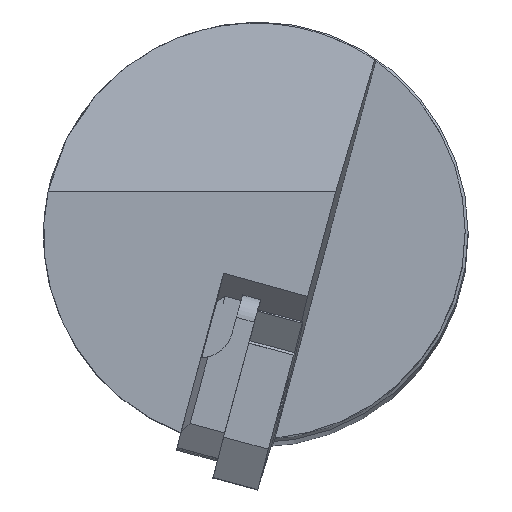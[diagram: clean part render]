
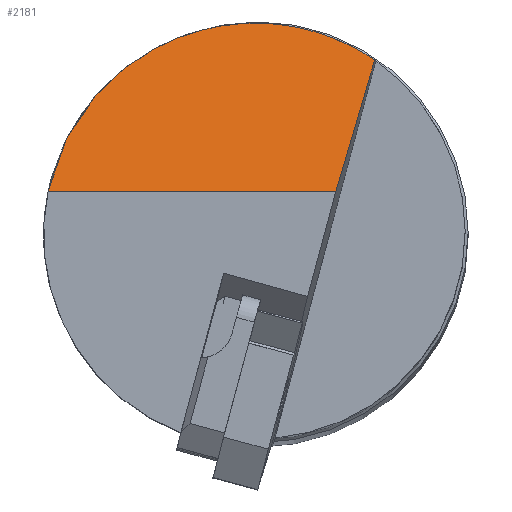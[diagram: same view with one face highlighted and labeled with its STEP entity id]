
A CAD part, top view. The second image highlights one B-rep face of the part: STEP entity #2181.
In plain terms, the highlighted planar face has unit normal (0, 0.848, 0.53).
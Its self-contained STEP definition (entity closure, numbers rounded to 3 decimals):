
#58 = CARTESIAN_POINT ( 'NONE',  ( -16.3, 3., 0. ) ) ;
#97 = CARTESIAN_POINT ( 'NONE',  ( 8.824, 12.925, -15.884 ) ) ;
#103 = DIRECTION ( 'NONE',  ( 0., -0.848, -0.53 ) ) ;
#147 = CARTESIAN_POINT ( 'NONE',  ( -15.829, 3., 0. ) ) ;
#160 = FACE_OUTER_BOUND ( 'NONE', #1507, .T. ) ;
#188 = DIRECTION ( 'NONE',  ( -0.155, -0.524, 0.838 ) ) ;
#219 = AXIS2_PLACEMENT_3D ( 'NONE', #783, #103, #2197 ) ;
#439 = ORIENTED_EDGE ( 'NONE', *, *, #895, .T. ) ;
#480 = VERTEX_POINT ( 'NONE', #97 ) ;
#513 = VERTEX_POINT ( 'NONE', #1704 ) ;
#552 = DIRECTION ( 'NONE',  ( 1., 0., 0. ) ) ;
#575 = VECTOR ( 'NONE', #552, 1000. ) ;
#654 = EDGE_CURVE ( 'NONE', #513, #480, #2099, .T. ) ;
#769 = EDGE_CURVE ( 'NONE', #480, #1090, #1986, .T. ) ;
#783 = CARTESIAN_POINT ( 'NONE',  ( -16.3, 3., 0. ) ) ;
#895 = EDGE_CURVE ( 'NONE', #513, #1090, #1325, .T. ) ;
#994 = CARTESIAN_POINT ( 'NONE',  ( -1.573, 20.025, -27.246 ) ) ;
#1090 = VERTEX_POINT ( 'NONE', #2245 ) ;
#1156 = PLANE ( 'NONE',  #219 ) ;
#1325 = LINE ( 'NONE', #58, #575 ) ;
#1445 = VECTOR ( 'NONE', #188, 1000. ) ;
#1507 = EDGE_LOOP ( 'NONE', ( #1994, #439, #1626 ) ) ;
#1626 = ORIENTED_EDGE ( 'NONE', *, *, #769, .F. ) ;
#1704 = CARTESIAN_POINT ( 'NONE',  ( -15.829, 3., 0. ) ) ;
#1737 = CARTESIAN_POINT ( 'NONE',  ( 8.824, 12.925, -15.884 ) ) ;
#1759 = CARTESIAN_POINT ( 'NONE',  ( 10.373, 18.16, -24.261 ) ) ;
#1986 = LINE ( 'NONE', #1759, #1445 ) ;
#1994 = ORIENTED_EDGE ( 'NONE', *, *, #654, .F. ) ;
#2070 = CARTESIAN_POINT ( 'NONE',  ( -13.252, 15.323, -19.721 ) ) ;
#2099 =( BOUNDED_CURVE ( )  B_SPLINE_CURVE ( 3, ( #147, #2070, #994, #1737 ),
 .UNSPECIFIED., .F., .T. ) 
 B_SPLINE_CURVE_WITH_KNOTS ( ( 4, 4 ),
 ( 1.777, 3.741 ),
 .UNSPECIFIED. ) 
 CURVE ( )  GEOMETRIC_REPRESENTATION_ITEM ( )  RATIONAL_B_SPLINE_CURVE ( ( 1., 0.704, 0.704, 1. ) ) 
 REPRESENTATION_ITEM ( '' )  );
#2181 = ADVANCED_FACE ( 'NONE', ( #160 ), #1156, .F. ) ;
#2197 = DIRECTION ( 'NONE',  ( 0., 0.53, -0.848 ) ) ;
#2245 = CARTESIAN_POINT ( 'NONE',  ( 5.887, 3., 0. ) ) ;
